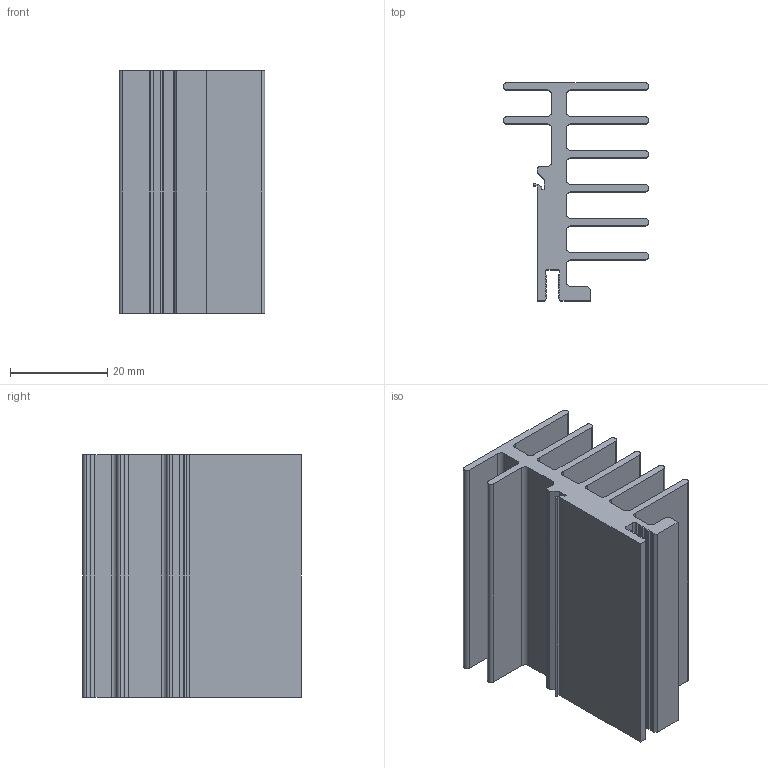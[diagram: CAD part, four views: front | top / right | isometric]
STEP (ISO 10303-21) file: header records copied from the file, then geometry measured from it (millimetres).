
FILE_DESCRIPTION (( 'STEP AP203' ), '1' );
FILE_NAME ('PR 127-50.step', '2002-10-20T23:20:30', ( 'Wolfgang Müller' ), ( 'DPS' ), 'SwSTEP 2.0', 'SolidWorks 2002264', '' );
FILE_SCHEMA (( 'CONFIG_CONTROL_DESIGN' ));
Length unit declared in the file: millimetre
Products named in the file (1): PR 127-50
Bounding box: 30 x 45 x 50 mm (x, y, z)
Volume: 19837.1 mm3; surface area: 19331.3 mm2
Topology: 1 solids, 1 shells, 135 faces, 399 edges, 266 vertices
Faces by surface type: plane 103, cylinder 32
Entity records: 4554 total; most frequent: CARTESIAN_POINT 801, ORIENTED_EDGE 798, DIRECTION 735, EDGE_CURVE 399, LINE 335, VECTOR 335, VERTEX_POINT 266, AXIS2_PLACEMENT_3D 200
